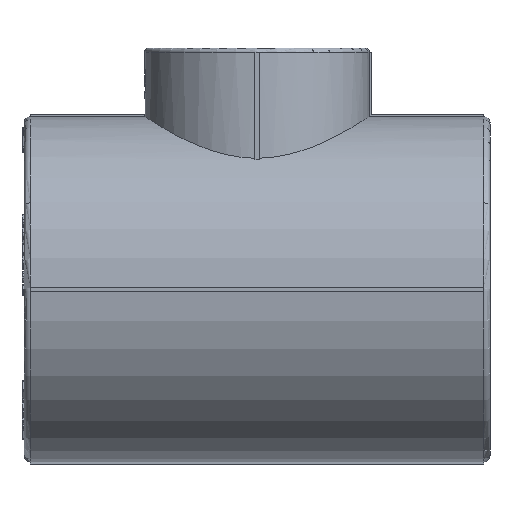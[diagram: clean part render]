
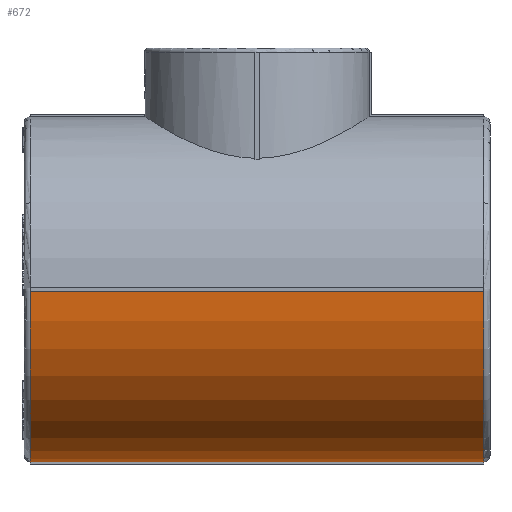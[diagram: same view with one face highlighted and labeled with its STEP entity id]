
A CAD part, left-side view. The second image highlights one B-rep face of the part: STEP entity #672.
In plain terms, the highlighted cylindrical face has radius 41.5 mm (diameter 83 mm), a partial arc.
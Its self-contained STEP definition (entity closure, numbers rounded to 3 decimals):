
#672=ADVANCED_FACE('',(#5221),#5223,.T.);
#5221=FACE_BOUND('',#5222,.T.);
#5222=EDGE_LOOP('',(#13210,#13211,#13212,#13213));
#5223=CYLINDRICAL_SURFACE('',#5224,41.5);
#5224=AXIS2_PLACEMENT_3D('',#5225,#5226,#5227);
#5225=CARTESIAN_POINT('',(0.,-56.,0.));
#5226=DIRECTION('',(0.,1.,0.));
#5227=DIRECTION('',(-1.,0.,0.));
#13210=ORIENTED_EDGE('',*,*,#18681,.F.);
#13211=ORIENTED_EDGE('',*,*,#18682,.T.);
#13212=ORIENTED_EDGE('',*,*,#18683,.F.);
#13213=ORIENTED_EDGE('',*,*,#18644,.F.);
#18644=EDGE_CURVE('',#22964,#22966,#22967,.T.);
#18681=EDGE_CURVE('',#23033,#22964,#23034,.T.);
#18682=EDGE_CURVE('',#23033,#23035,#23036,.T.);
#18683=EDGE_CURVE('',#22966,#23035,#23037,.F.);
#22964=VERTEX_POINT('',#31705);
#22966=VERTEX_POINT('',#31710);
#22967=CIRCLE('',#31711,41.5);
#23033=VERTEX_POINT('',#32105);
#23034=LINE('',#32106,#32107);
#23035=VERTEX_POINT('',#32109);
#23036=CIRCLE('',#32110,41.5);
#23037=LINE('',#32114,#32115);
#31705=CARTESIAN_POINT('',(-0.5,54.5,-41.497));
#31710=CARTESIAN_POINT('',(-41.497,54.5,-0.5));
#31711=AXIS2_PLACEMENT_3D('',#31712,#31713,#31714);
#31712=CARTESIAN_POINT('',(0.,54.5,0.));
#31713=DIRECTION('',(0.,1.,0.));
#31714=DIRECTION('',(-0.012,0.,-1.));
#32105=CARTESIAN_POINT('',(-0.5,-54.5,-41.497));
#32106=CARTESIAN_POINT('',(-0.5,-54.5,-41.497));
#32107=VECTOR('',#32108,1.);
#32108=DIRECTION('',(0.,1.,0.));
#32109=CARTESIAN_POINT('',(-41.497,-54.5,-0.5));
#32110=AXIS2_PLACEMENT_3D('',#32111,#32112,#32113);
#32111=CARTESIAN_POINT('',(0.,-54.5,0.));
#32112=DIRECTION('',(0.,1.,0.));
#32113=DIRECTION('',(-0.012,0.,-1.));
#32114=CARTESIAN_POINT('',(-41.497,-54.5,-0.5));
#32115=VECTOR('',#32116,1.);
#32116=DIRECTION('',(0.,1.,0.));
